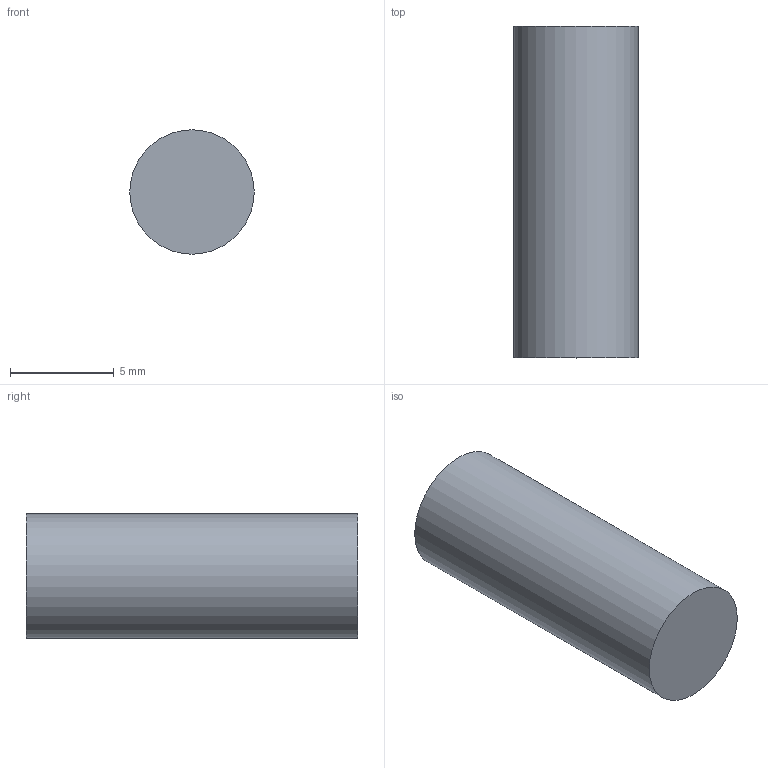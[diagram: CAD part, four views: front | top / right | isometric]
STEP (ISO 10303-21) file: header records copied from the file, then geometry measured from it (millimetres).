
FILE_DESCRIPTION(('Open CASCADE Model'),'2;1');
FILE_NAME('Open CASCADE Shape Model','2026-10-13T11:47:37',('Author'),( 'Open CASCADE'),'Open CASCADE STEP processor 7.8','Open CASCADE 7.8' ,'Unknown');
FILE_SCHEMA(('AUTOMOTIVE_DESIGN { 1 0 10303 214 1 1 1 1 }'));
Length unit declared in the file: millimetre
Products named in the file (1): Open CASCADE STEP translator 7.8 53
Bounding box: 6 x 16 x 6 mm (x, y, z)
Volume: 452.4 mm3; surface area: 358.1 mm2
Topology: 1 solids, 1 shells, 3 faces, 3 edges, 2 vertices
Faces by surface type: plane 2, cylinder 1
Full cylindrical faces by diameter (mm): 6 x1
Entity records: 108 total; most frequent: DIRECTION 19, CARTESIAN_POINT 15, AXIS2_PLACEMENT_3D 6, ORIENTED_EDGE 6, PCURVE 6, DEFINITIONAL_REPRESENTATION 6, LINE 5, VECTOR 5
